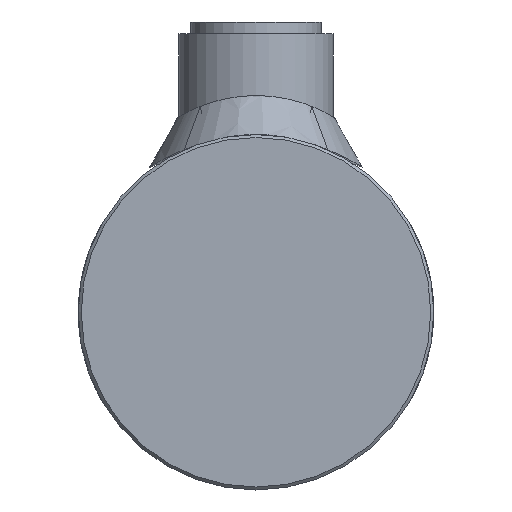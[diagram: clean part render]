
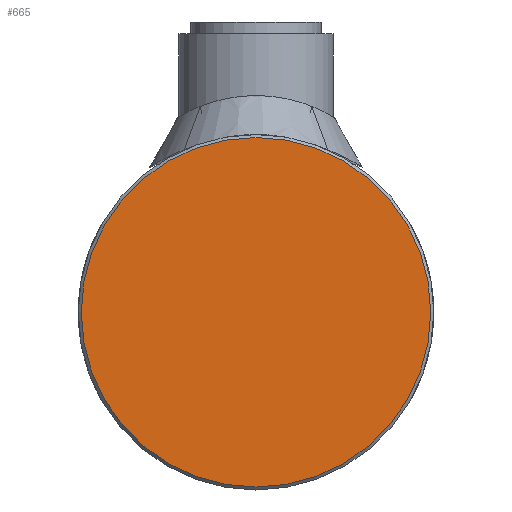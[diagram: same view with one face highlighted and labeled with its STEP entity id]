
A CAD part, left-side view. The second image highlights one B-rep face of the part: STEP entity #665.
In plain terms, the highlighted planar face has unit normal (-1, 0, 0).
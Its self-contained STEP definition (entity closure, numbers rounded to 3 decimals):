
#665 = ADVANCED_FACE( '', ( #1268 ), #1269, .T. );
#1268 = FACE_OUTER_BOUND( '', #2476, .T. );
#1269 = PLANE( '', #2477 );
#2476 = EDGE_LOOP( '', ( #7896 ) );
#2477 = AXIS2_PLACEMENT_3D( '', #7897, #7898, #7899 );
#7896 = ORIENTED_EDGE( '', *, *, #9033, .T. );
#7897 = CARTESIAN_POINT( '', ( -49., 0., 0. ) );
#7898 = DIRECTION( '', ( -1., 0., 0. ) );
#7899 = DIRECTION( '', ( 0., -1., 0. ) );
#9033 = EDGE_CURVE( '', #9686, #9686, #9687, .T. );
#9686 = VERTEX_POINT( '', #10967 );
#9687 = CIRCLE( '', #10968, 29.5 );
#10967 = CARTESIAN_POINT( '', ( -49., -29.5, 0. ) );
#10968 = AXIS2_PLACEMENT_3D( '', #13213, #13214, #13215 );
#13213 = CARTESIAN_POINT( '', ( -49., 0., 0. ) );
#13214 = DIRECTION( '', ( -1., 0., 0. ) );
#13215 = DIRECTION( '', ( 0., -1., 0. ) );
